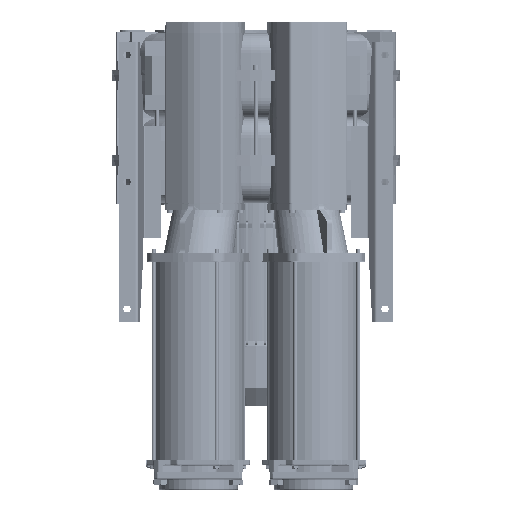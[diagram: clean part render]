
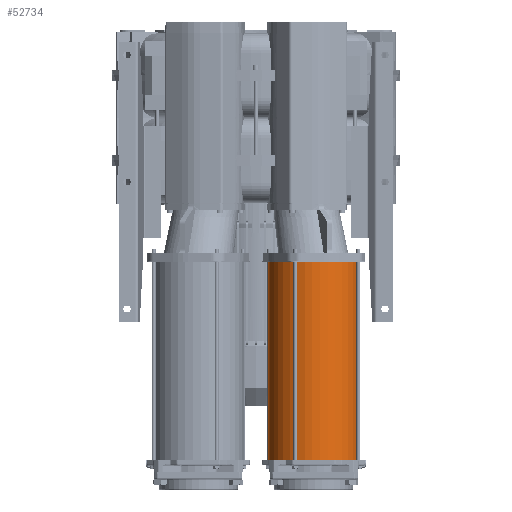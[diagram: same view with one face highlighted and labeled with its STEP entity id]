
A CAD part, front view. The second image highlights one B-rep face of the part: STEP entity #52734.
In plain terms, the highlighted cylindrical face has radius 90 mm (diameter 180 mm), a full revolution.
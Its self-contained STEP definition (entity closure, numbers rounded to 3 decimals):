
#412 = CARTESIAN_POINT ( 'NONE',  ( 173.658, -207.494, -345.5 ) ) ;
#4515 = DIRECTION ( 'NONE',  ( -0.665, -0.747, 0. ) ) ;
#5492 = AXIS2_PLACEMENT_3D ( 'NONE', #41680, #131640, #4515 ) ;
#5999 = EDGE_CURVE ( 'NONE', #66954, #66954, #30756, .T. ) ;
#26050 = DIRECTION ( 'NONE',  ( 0., 0., 1. ) ) ;
#30756 = CIRCLE ( 'NONE', #123001, 90. ) ;
#34716 = EDGE_LOOP ( 'NONE', ( #69791 ) ) ;
#41680 = CARTESIAN_POINT ( 'NONE',  ( 113.777, -274.681, -346. ) ) ;
#52734 = ADVANCED_FACE ( 'NONE', ( #94456, #66435 ), #106846, .T. ) ;
#59311 = CIRCLE ( 'NONE', #151608, 90. ) ;
#63149 = VERTEX_POINT ( 'NONE', #412 ) ;
#66435 = FACE_OUTER_BOUND ( 'NONE', #91715, .T. ) ;
#66954 = VERTEX_POINT ( 'NONE', #77695 ) ;
#69791 = ORIENTED_EDGE ( 'NONE', *, *, #5999, .T. ) ;
#77695 = CARTESIAN_POINT ( 'NONE',  ( 173.658, -207.494, 43.5 ) ) ;
#91715 = EDGE_LOOP ( 'NONE', ( #163398 ) ) ;
#94456 = FACE_OUTER_BOUND ( 'NONE', #34716, .T. ) ;
#106846 = CYLINDRICAL_SURFACE ( 'NONE', #5492, 90. ) ;
#123001 = AXIS2_PLACEMENT_3D ( 'NONE', #150245, #160199, #147829 ) ;
#125880 = CARTESIAN_POINT ( 'NONE',  ( 113.777, -274.681, -345.5 ) ) ;
#131640 = DIRECTION ( 'NONE',  ( 0., 0., 1. ) ) ;
#143863 = EDGE_CURVE ( 'NONE', #63149, #63149, #59311, .T. ) ;
#147829 = DIRECTION ( 'NONE',  ( 0.665, 0.747, 0. ) ) ;
#149879 = DIRECTION ( 'NONE',  ( 0.665, 0.747, 0. ) ) ;
#150245 = CARTESIAN_POINT ( 'NONE',  ( 113.777, -274.681, 43.5 ) ) ;
#151608 = AXIS2_PLACEMENT_3D ( 'NONE', #125880, #26050, #149879 ) ;
#160199 = DIRECTION ( 'NONE',  ( 0., 0., -1. ) ) ;
#163398 = ORIENTED_EDGE ( 'NONE', *, *, #143863, .T. ) ;
